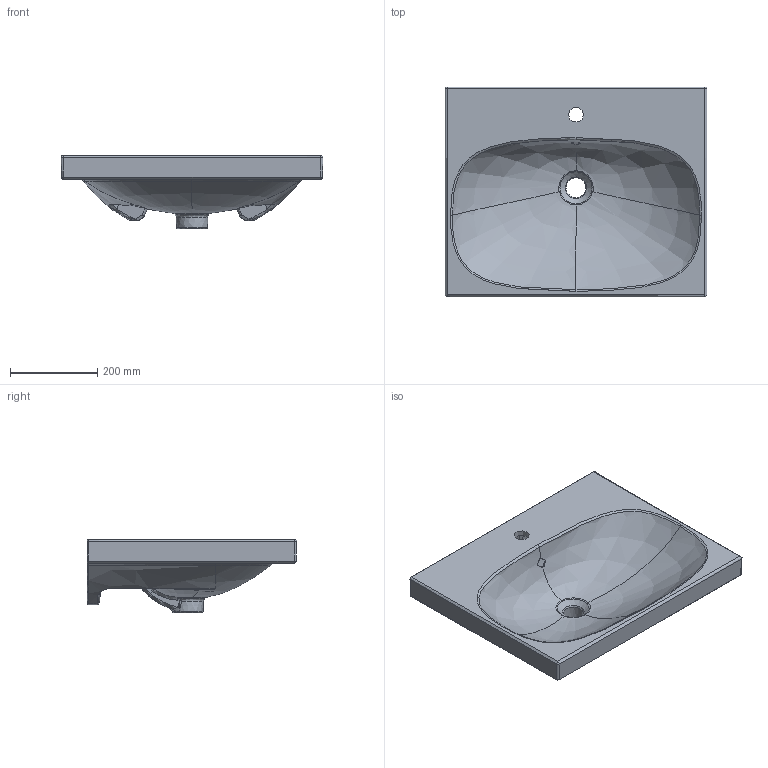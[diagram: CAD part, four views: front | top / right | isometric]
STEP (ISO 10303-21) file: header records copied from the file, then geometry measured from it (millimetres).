
FILE_DESCRIPTION(/* description */ (''),/* implementation_level */ '2;1');
FILE_NAME(/* name */ 'C:\Planerdaten\Export PLA\500.620.01.1\stp\500620.stp',/* time_stamp */ '2020-02-24T08:21:48+01:00',/* author */ ('JANAN'),/* organization */ (''),/* preprocessor_version */ 'ST-DEVELOPER v16.13',/* originating_system */ 'Autodesk Inventor 2018',/* authorisation */ '');
FILE_SCHEMA (('AUTOMOTIVE_DESIGN { 1 0 10303 214 3 1 1 }'));
Length unit declared in the file: millimetre
Products named in the file (1): WT Ge+Acn B60 m/ÜLF m/HLo
Bounding box: 599.73 x 479.87 x 168 mm (x, y, z)
Volume: 10168448.8 mm3; surface area: 891332.6 mm2
Topology: 1 solids, 1 shells, 230 faces, 552 edges, 322 vertices
Faces by surface type: bspline 113, cylinder 55, plane 25, torus 24, sphere 8, cone 5
Full cylindrical faces by diameter (mm): 35 x1, 47 x1
Entity records: 28059 total; most frequent: CARTESIAN_POINT 23327, ORIENTED_EDGE 1090, DIRECTION 682, EDGE_CURVE 545, VERTEX_POINT 321, AXIS2_PLACEMENT_3D 283, B_SPLINE_CURVE_WITH_KNOTS 248, EDGE_LOOP 242
